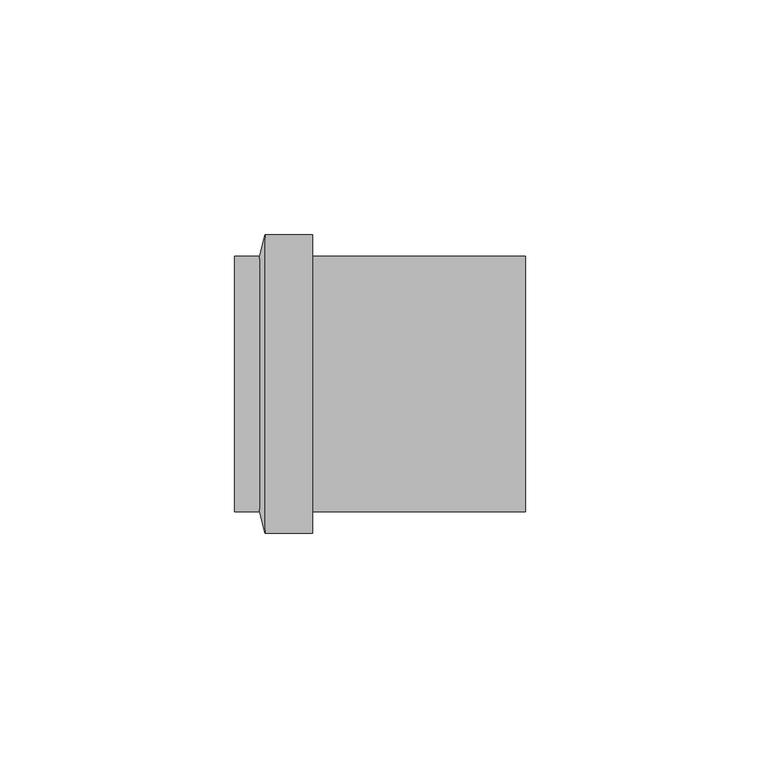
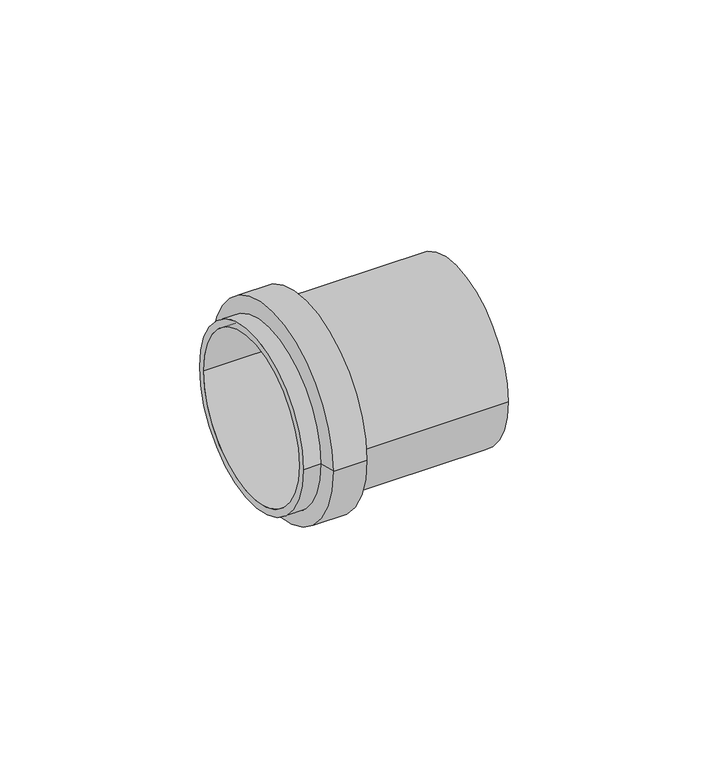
"""IFC4 building model written with IfcOpenShell, lengths in millimetres: pipe fitting geometry, Luva Simples para Conexão - Serie Normal - Esgoto - MEP - Tigre : Luva Simples para Conexão - Serie Normal - Esgoto - MEP - Tigre."""

from ifc_helpers import new_model, si_unit, frame, origin, place, context, project, spatial, polyline, circle_curve, source, transform, mapped, element, save
from ifc_brep_helpers import plane_surface, cylinder_surface, revolved_surface, advanced_brep


def pipe_fitting_ea4bc239(model_context):
    return source(origin(), model_context, "Body", "AdvancedBrep", [
        advanced_brep(
        [(16.6, -31.8, 0.0), (16.6, 31.8, 0.0), (16.6, -27.2, 0.0), (16.6, 27.2, 0.0), (6.5, 31.8, 0.0), (6.5, -31.8, 0.0), (62.0, -27.2, 0.0), (62.0, 27.2, 0.0), (62.0, -25.0, 0.0), (62.0, 25.0, 0.0), (0.0, -27.2, 0.0), (0.0, 27.2, 0.0), (0.0, 25.0, 0.0), (0.0, -25.0, 0.0), (5.3, -27.2, 0.0), (5.3, 27.2, 0.0), (39.0, -25.0, 0.0), (39.0, 25.0, 0.0)],
        [
            (0, 1, circle_curve(frame((16.6, 0.0, 0.0), z_axis=(1.0, 0.0, 0.0), x_axis=(0.0, 1.0, 0.0)), 31.8)),
            (1, 0, circle_curve(frame((16.6, 0.0, 0.0), z_axis=(1.0, 0.0, 0.0), x_axis=(0.0, 1.0, 0.0)), 31.8)),
            (2, 3, circle_curve(frame((16.6, 0.0, 0.0), z_axis=(-1.0, 0.0, 0.0), x_axis=(0.0, 1.0, 0.0)), 27.2)),
            (3, 2, circle_curve(frame((16.6, 0.0, 0.0), z_axis=(-1.0, 0.0, 0.0), x_axis=(0.0, 1.0, 0.0)), 27.2)),
            (1, 4),
            (4, 5, circle_curve(frame((6.5, 0.0, 0.0), z_axis=(1.0, 0.0, 0.0), x_axis=(0.0, 1.0, 0.0)), 31.8)),
            (5, 0),
            (5, 4, circle_curve(frame((6.5, 0.0, 0.0), z_axis=(1.0, 0.0, 0.0), x_axis=(0.0, 1.0, 0.0)), 31.8)),
            (6, 7, circle_curve(frame((62.0, 0.0, 0.0), z_axis=(1.0, 0.0, 0.0), x_axis=(0.0, 1.0, 0.0)), 27.2)),
            (7, 6, circle_curve(frame((62.0, 0.0, 0.0), z_axis=(1.0, 0.0, 0.0), x_axis=(0.0, 1.0, 0.0)), 27.2)),
            (8, 9, circle_curve(frame((62.0, 0.0, 0.0), z_axis=(-1.0, 0.0, 0.0), x_axis=(0.0, 1.0, 0.0)), 25.0)),
            (9, 8, circle_curve(frame((62.0, 0.0, 0.0), z_axis=(-1.0, 0.0, 0.0), x_axis=(0.0, 1.0, 0.0)), 25.0)),
            (10, 11, circle_curve(frame((0.0, 0.0, 0.0), z_axis=(-1.0, 0.0, 0.0), x_axis=(0.0, 1.0, 0.0)), 27.2)),
            (11, 10, circle_curve(frame((0.0, 0.0, 0.0), z_axis=(-1.0, 0.0, 0.0), x_axis=(0.0, 1.0, 0.0)), 27.2)),
            (12, 13, circle_curve(frame((0.0, 0.0, 0.0), z_axis=(1.0, 0.0, 0.0), x_axis=(0.0, 1.0, 0.0)), 25.0)),
            (13, 12, circle_curve(frame((0.0, 0.0, 0.0), z_axis=(1.0, 0.0, 0.0), x_axis=(0.0, 1.0, 0.0)), 25.0)),
            (10, 14),
            (14, 15, circle_curve(frame((5.3, 0.0, 0.0), z_axis=(-1.0, 0.0, 0.0), x_axis=(0.0, 1.0, 0.0)), 27.2)),
            (15, 11),
            (15, 14, circle_curve(frame((5.3, 0.0, 0.0), z_axis=(-1.0, 0.0, 0.0), x_axis=(0.0, 1.0, 0.0)), 27.2)),
            (8, 16),
            (16, 13),
            (12, 17),
            (17, 9),
            (15, 4),
            (5, 14),
            (7, 3),
            (2, 6),
        ],
        [
            plane_surface(frame((16.6, 0.0, 0.0), z_axis=(1.0, 0.0, 0.0), x_axis=(0.0, 0.0, 1.0))),
            cylinder_surface(frame((6.5, 0.0, 0.0), z_axis=(-1.0, 0.0, 0.0), x_axis=(0.0, 1.0, 0.0)), 31.8),
            plane_surface(frame((62.0, 0.0, 0.0), z_axis=(1.0, 0.0, 0.0), x_axis=(0.0, 0.0, 1.0))),
            plane_surface(frame((0.0, 0.0, 0.0), z_axis=(-1.0, 0.0, 0.0), x_axis=(0.0, 0.0, 1.0))),
            cylinder_surface(frame((0.0, 0.0, 0.0), z_axis=(-1.0, 0.0, 0.0), x_axis=(0.0, 1.0, 0.0)), 27.2),
            revolved_surface(polyline([(0.0, 25.0, 0.0), (62.0, 25.0, 0.0)]), (0.0, 0.0, 0.0), (-1.0, 0.0, 0.0)),
            revolved_surface(polyline([(5.3, 27.200000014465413, 0.0), (6.499999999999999, 31.8, 0.0)]), (-1.7956522, 0.0, 0.0), (1.0, 0.0, 0.0)),
            cylinder_surface(frame((16.6, 0.0, 0.0), z_axis=(-1.0, 0.0, 0.0), x_axis=(0.0, 1.0, 0.0)), 27.2),
        ],
        [
            (0, [[1, 2], [3, 4]]),
            (1, [[-2, 5, 6, 7]]),
            (1, [[-1, -7, 8, -5]]),
            (2, [[9, 10], [11, 12]]),
            (3, [[13, 14], [15, 16]]),
            (4, [[-13, 17, 18, 19]]),
            (4, [[-14, -19, 20, -17]]),
            (5, [[-11, 21, 22, -15, 23, 24]]),
            (5, [[-12, -24, -23, -16, -22, -21]]),
            (6, [[25, -8, 26, -20]]),
            (6, [[-25, -18, -26, -6]]),
            (7, [[-10, 27, -3, 28]]),
            (7, [[-9, -28, -4, -27]]),
        ],
    ),
    ])


if __name__ == "__main__":
    model = new_model("IFC4")
    model_context = context("Model", 3, world=origin())
    ifc_project = project(units=[si_unit("LENGTHUNIT", "METRE", prefix="MILLI")], contexts=[model_context])
    site = spatial("IfcSite", under=ifc_project)
    building = spatial("IfcBuilding", under=site)
    placement = place(None, origin())
    pipe_fitting_shape = pipe_fitting_ea4bc239(model_context)
    element("IfcPipeFitting", 1, ObjectType="Luva Simples para Conexão - Serie Normal - Esgoto - MEP - Tigre : Luva Simples para Conexão - Serie Normal - Esgoto - MEP - Tigre", at=placement, inside=building, context=model_context, shape_type="MappedRepresentation", body=[
        mapped(pipe_fitting_shape, transform((0.0, 0.0, 0.0), x_axis=(1.0, 0.0, 0.0), y_axis=(0.0, 1.0, 0.0), z_axis=(0.0, 0.0, 1.0))),
    ])
    save(model, "model.ifc")
